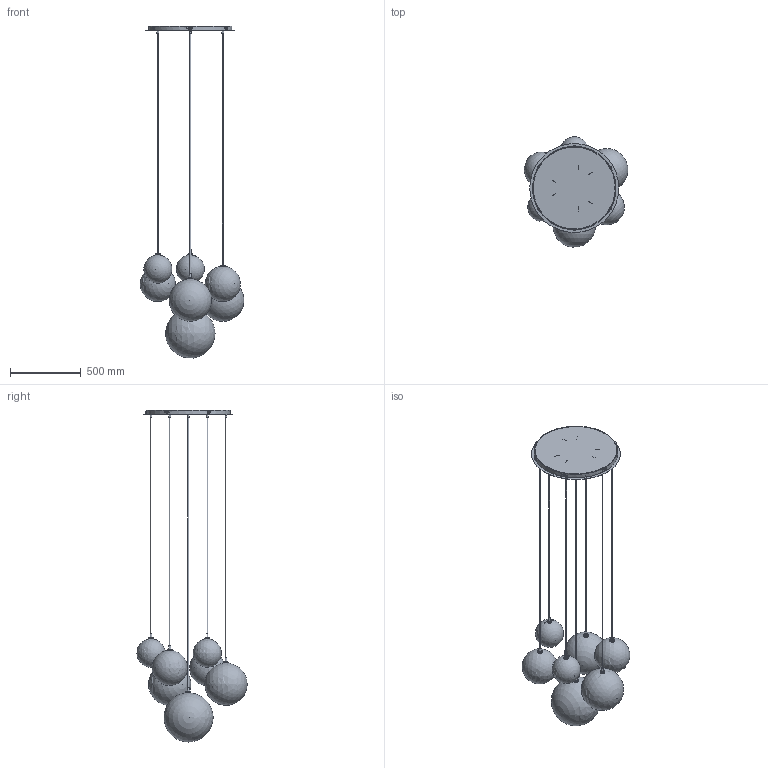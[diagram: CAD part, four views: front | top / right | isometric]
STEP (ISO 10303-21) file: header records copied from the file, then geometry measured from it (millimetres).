
FILE_DESCRIPTION(/* description */ (''),/* implementation_level */ '2;1');
FILE_NAME(/* name */ '',/* time_stamp */ '2024-02-29T10:48:03+01:00',/* author */ ('Lukasz'),/* organization */ (''),/* preprocessor_version */ 'ST-DEVELOPER v20',/* originating_system */ 'Autodesk Inventor 2024',/* authorisation */ '');
FILE_SCHEMA (('AUTOMOTIVE_DESIGN { 1 0 10303 214 3 1 1 }'));
Length unit declared in the file: millimetre
Products named in the file (1): Część11
Bounding box: 733.51 x 780.56 x 2349.62 mm (x, y, z)
Volume: 5345450.1 mm3; surface area: 5364108.5 mm2
Topology: 89 solids, 89 shells, 1213 faces, 2752 edges, 1757 vertices
Faces by surface type: plane 675, cylinder 362, cone 105, torus 44, sphere 20, bspline 7
Full cylindrical faces by diameter (mm): 3 x12, 6 x18, 7 x7, 8.8 x6, 10 x1, 11 x13, 13 x21, 19.8 x7, 33 x7, 35 x7, 630 x1
Entity records: 35949 total; most frequent: CARTESIAN_POINT 6995, DIRECTION 6121, ORIENTED_EDGE 5420, EDGE_CURVE 2710, AXIS2_PLACEMENT_3D 2364, VERTEX_POINT 1726, LINE 1393, VECTOR 1393
